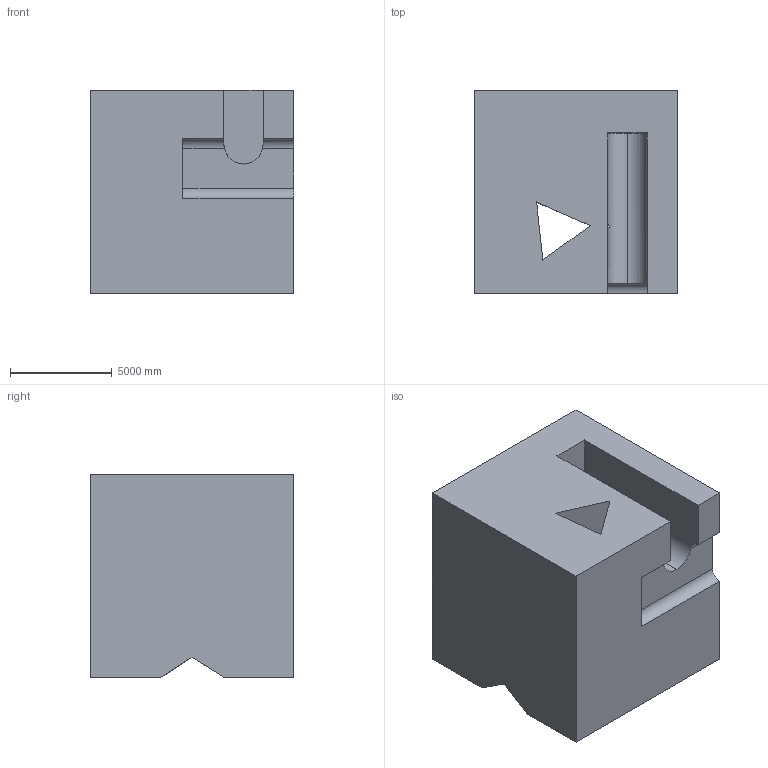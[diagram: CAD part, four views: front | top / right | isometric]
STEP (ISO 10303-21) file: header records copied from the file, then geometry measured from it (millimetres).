
FILE_DESCRIPTION (( 'STEP AP203' ), '1' );
FILE_NAME ('293.STEP', '2022-09-07T12:40:16', ( 'user' ), ( '' ), 'SwSTEP 2.0', 'SolidWorks 2021', '' );
FILE_SCHEMA (( 'CONFIG_CONTROL_DESIGN' ));
Length unit declared in the file: centimetre
Products named in the file (1): 293
Bounding box: 10000 x 10000 x 10000 mm (x, y, z)
Volume: 868678660175 mm3; surface area: 762140864.5 mm2
Topology: 1 solids, 1 shells, 28 faces, 87 edges, 58 vertices
Faces by surface type: plane 23, cylinder 5
Entity records: 1072 total; most frequent: CARTESIAN_POINT 210, ORIENTED_EDGE 174, DIRECTION 151, EDGE_CURVE 87, VECTOR 73, LINE 73, VERTEX_POINT 58, AXIS2_PLACEMENT_3D 39
